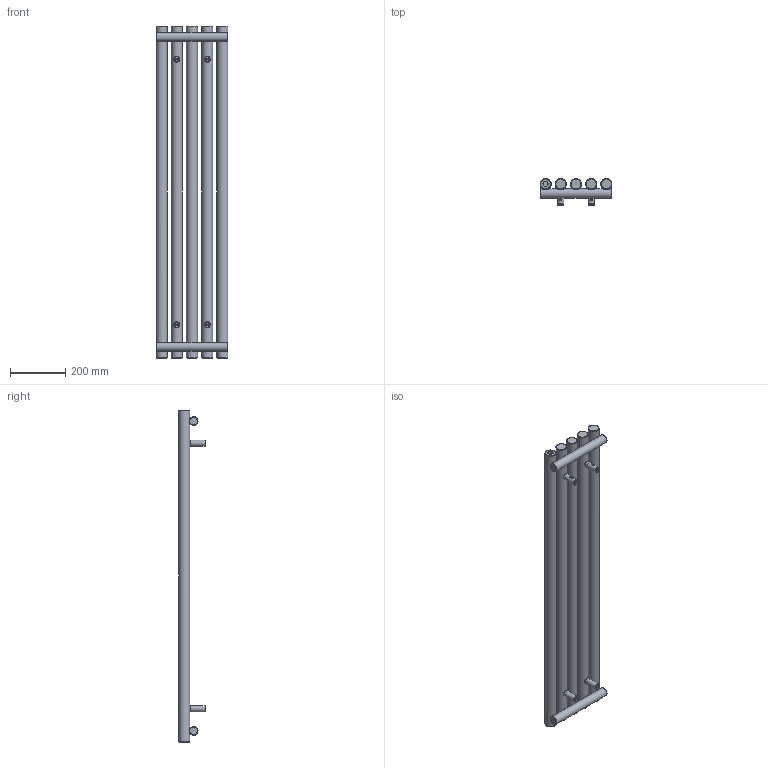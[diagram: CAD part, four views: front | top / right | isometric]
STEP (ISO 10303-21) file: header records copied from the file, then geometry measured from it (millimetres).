
FILE_DESCRIPTION(/* description */ (''),/* implementation_level */ '2;1');
FILE_NAME(/* name */ 'Z:\R\G\P\RGP116 - Grzejniki Geyser\Work\Inventor\Circolo (Rolo V, Rolo H)\ROLO-ROOM\Marketing\Zaokrąglone\WGROR120026-SX-CK-(Z).stp',/* time_stamp */ '2024-01-19T11:47:09+01:00',/* author */ ('NowAd'),/* organization */ (''),/* preprocessor_version */ 'ST-DEVELOPER v17.2',/* originating_system */ 'Autodesk Inventor 2019',/* authorisation */ '');
FILE_SCHEMA (('AUTOMOTIVE_DESIGN { 1 0 10303 214 3 1 1 }'));
Length unit declared in the file: millimetre
Products named in the file (3): WGROR120026-SX-CK-(Z); PGROR120026-SX-CK-(K); CK-V-fi40 marketing
Assembly tree (5 placements, depth 2):
  WGROR120026-SX-CK-(Z)
    PGROR120026-SX-CK-(K)
    CK-V-fi40 marketing  x4
Bounding box: 260 x 96.5 x 1200 mm (x, y, z)
Volume: 7996737.7 mm3; surface area: 848365.9 mm2
Topology: 5 solids, 5 shells, 319 faces, 804 edges, 538 vertices
Faces by surface type: plane 133, cylinder 74, cone 60, torus 42, bspline 10
Full cylindrical faces by diameter (mm): 4.134 x4, 4.48 x4, 6.4 x4, 10 x4, 12 x4, 15.834 x4, 16 x4, 18.631 x3, 22 x4, 32 x2, 40 x5
Entity records: 6351 total; most frequent: CARTESIAN_POINT 3061, DIRECTION 689, ORIENTED_EDGE 646, EDGE_CURVE 323, AXIS2_PLACEMENT_3D 307, VERTEX_POINT 220, EDGE_LOOP 175, CIRCLE 165
